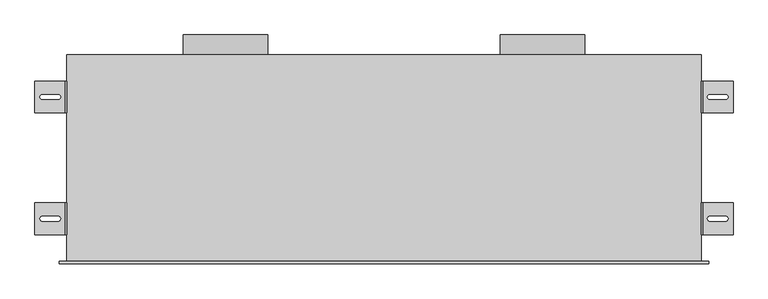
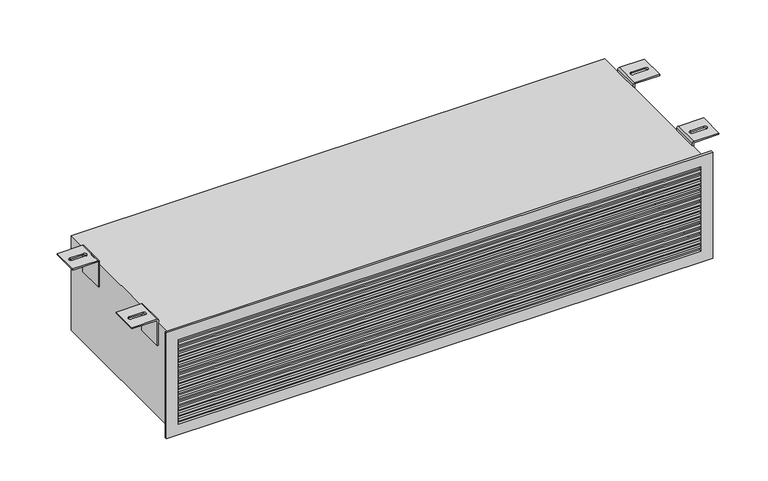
"""IFC4 building model written with IfcOpenShell, lengths in millimetres: air terminal geometry, EOL - Mural - 2 piquages : EOL-M2x160-1200x225-2."""

from ifc_helpers import new_model, si_unit, point, frame, frame_2d, origin, place, context, project, spatial, polyline, circle_curve, ellipse_curve, trimmed, segment, composite_curve, outline, extrude, source, transform, mapped, element, save
from ifc_brep_helpers import plane_surface, cylinder_surface, revolved_surface, extruded_surface, advanced_brep


def air_terminal_dbaeedca(model_context):
    return source(origin(), model_context, "Body", "SolidModel", [
        advanced_brep(
        [(604.0013366, 110.0, 121.5), (660.0, 110.0, 121.5), (660.0, 110.0, 118.5), (604.0, 110.0, 118.5), (603.0, 110.0, 117.5), (603.0, 110.0, 58.5), (600.0, 110.0, 58.5), (600.0, 110.0, 117.4986634), (604.0013366, 50.0, 121.5), (600.0, 50.0, 117.4986634), (600.0, 50.0, 58.5), (603.0, 50.0, 58.5), (603.0, 50.0, 117.5), (604.0, 50.0, 118.5), (660.0, 50.0, 118.5), (660.0, 50.0, 121.5), (646.0287952, 75.4804328, 121.5), (616.0287952, 75.4804328, 121.5), (616.0287952, 84.4804328, 121.5), (646.0287952, 84.4804328, 121.5), (616.0287952, 75.4804328, 118.5), (646.0287952, 75.4804328, 118.5), (646.0287952, 84.4804328, 118.5), (616.0287952, 84.4804328, 118.5)],
        [
            (0, 1),
            (1, 2),
            (2, 3),
            (3, 4, circle_curve(frame((604.0, 110.0, 117.5), z_axis=(0.0, -1.0, 0.0), x_axis=(-1.0000000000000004, 0.0, 0.0)), 1.0)),
            (4, 5),
            (5, 6),
            (6, 7),
            (7, 0, circle_curve(frame((604.0013366, 110.0, 117.4986634), z_axis=(0.0, 1.0, 0.0), x_axis=(-1.0000000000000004, 0.0, 0.0)), 4.0013366)),
            (8, 9, circle_curve(frame((604.0013366, 50.0, 117.4986634), z_axis=(0.0, -1.0, 0.0), x_axis=(-1.0000000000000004, 0.0, 0.0)), 4.0013366)),
            (9, 10),
            (10, 11),
            (11, 12),
            (12, 13, circle_curve(frame((604.0, 50.0, 117.5), z_axis=(0.0, 1.0, 0.0), x_axis=(-1.0000000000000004, 0.0, 0.0)), 1.0)),
            (13, 14),
            (14, 15),
            (15, 8),
            (0, 8),
            (15, 1),
            (16, 17),
            (17, 18, circle_curve(frame((616.0287952, 79.9804328, 121.5), z_axis=(0.0, 0.0, -1.0), x_axis=(0.0, -1.0, 0.0)), 4.5)),
            (18, 19),
            (19, 16, circle_curve(frame((646.0287952, 79.9804328, 121.5), z_axis=(0.0, 0.0, -1.0), x_axis=(0.0, -1.0, 0.0)), 4.5)),
            (14, 2),
            (13, 3),
            (20, 21),
            (21, 22, ellipse_curve(frame((646.0287952, 79.9804328, 118.5), z_axis=(0.0, 0.0, 1.0), x_axis=(0.0, -1.0, 0.0)), 4.5, 4.5)),
            (22, 23),
            (23, 20, ellipse_curve(frame((616.0287952, 79.9804328, 118.5), z_axis=(0.0, 0.0, 1.0), x_axis=(0.0, -1.0, 0.0)), 4.5, 4.5)),
            (12, 4),
            (11, 5),
            (10, 6),
            (9, 7),
            (16, 21),
            (20, 17),
            (19, 22),
            (18, 23),
        ],
        [
            plane_surface(frame((660.0, 110.0, 121.5), z_axis=(0.0, 1.0, 0.0), x_axis=(1.0, 0.0, 0.0))),
            plane_surface(frame((660.0, 50.0, 121.5), z_axis=(0.0, -1.0, 0.0), x_axis=(-1.0, 0.0, 0.0))),
            plane_surface(frame((604.0013366, 110.0, 121.5), z_axis=(0.0, 0.0, 1.0), x_axis=(0.0, -1.0, 0.0))),
            plane_surface(frame((660.0, 110.0, 121.5), z_axis=(1.0, 0.0, 0.0), x_axis=(0.0, -1.0, 0.0))),
            plane_surface(frame((660.0, 110.0, 118.5), z_axis=(0.0, 0.0, -1.0), x_axis=(0.0, -1.0, 0.0))),
            revolved_surface(polyline([(603.0, 50.0, 117.5), (603.0, 110.00000000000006, 117.5)]), (604.0, 50.0, 117.5), (0.0, -1.0000000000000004, 0.0)),
            plane_surface(frame((603.0, 110.0, 117.5), z_axis=(1.0, 0.0, 0.0), x_axis=(0.0, -1.0, 0.0))),
            plane_surface(frame((603.0, 110.0, 58.5), z_axis=(0.0, 0.0, -1.0), x_axis=(0.0, -1.0, 0.0))),
            plane_surface(frame((600.0, 110.0, 58.5), z_axis=(-1.0, 0.0, 0.0), x_axis=(0.0, -1.0, 0.0))),
            cylinder_surface(frame((604.0013366, 50.0, 117.4986634), z_axis=(0.0, 1.0000000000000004, 0.0), x_axis=(-1.0000000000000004, 0.0, 0.0)), 4.0013366),
            plane_surface(frame((616.0287952, 75.4804328, 121.5), z_axis=(0.0, 1.0, 0.0), x_axis=(0.0, 0.0, -1.0))),
            extruded_surface(trimmed(ellipse_curve(frame((646.0287952, 79.9804328, 118.5), z_axis=(0.0, 0.0, 1.0), x_axis=(0.0, -1.0, 0.0)), 4.5, 4.5), [point((646.0287952, 75.4804328, 118.5))], [point((646.0287952, 84.4804328, 118.5))], True, "CARTESIAN"), (0.0, 0.0, -3.0), 3.0),
            plane_surface(frame((646.0287952, 84.4804328, 121.5), z_axis=(0.0, -1.0, 0.0), x_axis=(0.0, 0.0, -1.0))),
            extruded_surface(trimmed(ellipse_curve(frame((616.0287952, 79.9804328, 118.5), z_axis=(0.0, 0.0, 1.0), x_axis=(0.0, -1.0, 0.0)), 4.5, 4.5), [point((616.0287952, 84.4804328, 118.5))], [point((616.0287952, 75.4804328, 118.5))], True, "CARTESIAN"), (0.0, 0.0, -3.0), 3.0),
        ],
        [
            (0, [[1, 2, 3, 4, 5, 6, 7, 8]]),
            (1, [[9, 10, 11, 12, 13, 14, 15, 16]]),
            (2, [[-1, 17, -16, 18], [19, 20, 21, 22]]),
            (3, [[-2, -18, -15, 23]]),
            (4, [[-3, -23, -14, 24], [25, 26, 27, 28]]),
            (5, [[-4, -24, -13, 29]]),
            (6, [[-5, -29, -12, 30]]),
            (7, [[-6, -30, -11, 31]]),
            (8, [[-7, -31, -10, 32]]),
            (9, [[-8, -32, -9, -17]]),
            (10, [[33, -25, 34, -19]]),
            (11, [[-33, -22, 35, -26]]),
            (12, [[-35, -21, 36, -27]]),
            (13, [[-34, -28, -36, -20]]),
        ],
    ),
        advanced_brep(
        [(604.0013366, 340.0, 121.5), (660.0, 340.0, 121.5), (660.0, 340.0, 118.5), (604.0, 340.0, 118.5), (603.0, 340.0, 117.5), (603.0, 340.0, 58.5), (600.0, 340.0, 58.5), (600.0, 340.0, 117.4986634), (604.0013366, 280.0, 121.5), (600.0, 280.0, 117.4986634), (600.0, 280.0, 58.5), (603.0, 280.0, 58.5), (603.0, 280.0, 117.5), (604.0, 280.0, 118.5), (660.0, 280.0, 118.5), (660.0, 280.0, 121.5), (646.0287952, 305.4804328, 121.5), (616.0287952, 305.4804328, 121.5), (616.0287952, 314.4804328, 121.5), (646.0287952, 314.4804328, 121.5), (616.0287952, 305.4804328, 118.5), (646.0287952, 305.4804328, 118.5), (646.0287952, 314.4804328, 118.5), (616.0287952, 314.4804328, 118.5)],
        [
            (0, 1),
            (1, 2),
            (2, 3),
            (3, 4, circle_curve(frame((604.0, 340.0, 117.5), z_axis=(0.0, -1.0, 0.0), x_axis=(-1.0, 0.0, 0.0)), 1.0)),
            (4, 5),
            (5, 6),
            (6, 7),
            (7, 0, circle_curve(frame((604.0013366, 340.0, 117.4986634), z_axis=(0.0, 1.0, 0.0), x_axis=(-1.0, 0.0, 0.0)), 4.0013366)),
            (8, 9, circle_curve(frame((604.0013366, 280.0, 117.4986634), z_axis=(0.0, -1.0, 0.0), x_axis=(-1.0, 0.0, 0.0)), 4.0013366)),
            (9, 10),
            (10, 11),
            (11, 12),
            (12, 13, circle_curve(frame((604.0, 280.0, 117.5), z_axis=(0.0, 1.0, 0.0), x_axis=(-1.0, 0.0, 0.0)), 1.0)),
            (13, 14),
            (14, 15),
            (15, 8),
            (0, 8),
            (15, 1),
            (16, 17),
            (17, 18, circle_curve(frame((616.0287952, 309.9804328, 121.5), z_axis=(0.0, 0.0, -1.0), x_axis=(0.0, -1.0, 0.0)), 4.5)),
            (18, 19),
            (19, 16, circle_curve(frame((646.0287952, 309.9804328, 121.5), z_axis=(0.0, 0.0, -1.0), x_axis=(0.0, -1.0, 0.0)), 4.5)),
            (14, 2),
            (13, 3),
            (20, 21),
            (21, 22, ellipse_curve(frame((646.0287952, 309.9804328, 118.5), z_axis=(0.0, 0.0, 1.0), x_axis=(0.0, -1.0, 0.0)), 4.5, 4.5)),
            (22, 23),
            (23, 20, ellipse_curve(frame((616.0287952, 309.9804328, 118.5), z_axis=(0.0, 0.0, 1.0), x_axis=(0.0, -1.0, 0.0)), 4.5, 4.5)),
            (12, 4),
            (11, 5),
            (10, 6),
            (9, 7),
            (16, 21),
            (20, 17),
            (19, 22),
            (18, 23),
        ],
        [
            plane_surface(frame((660.0, 340.0, 121.5), z_axis=(0.0, 1.0, 0.0), x_axis=(1.0, 0.0, 0.0))),
            plane_surface(frame((660.0, 280.0, 121.5), z_axis=(0.0, -1.0, 0.0), x_axis=(-1.0, 0.0, 0.0))),
            plane_surface(frame((604.0013366, 340.0, 121.5), z_axis=(0.0, 0.0, 1.0), x_axis=(0.0, -1.0, 0.0))),
            plane_surface(frame((660.0, 340.0, 121.5), z_axis=(1.0, 0.0, 0.0), x_axis=(0.0, -1.0, 0.0))),
            plane_surface(frame((660.0, 340.0, 118.5), z_axis=(0.0, 0.0, -1.0), x_axis=(0.0, -1.0, 0.0))),
            revolved_surface(polyline([(603.0, 280.0, 117.5), (603.0, 340.0, 117.5)]), (604.0, 280.0, 117.5), (0.0, -1.0, 0.0)),
            plane_surface(frame((603.0, 340.0, 117.5), z_axis=(1.0, 0.0, 0.0), x_axis=(0.0, -1.0, 0.0))),
            plane_surface(frame((603.0, 340.0, 58.5), z_axis=(0.0, 0.0, -1.0), x_axis=(0.0, -1.0, 0.0))),
            plane_surface(frame((600.0, 340.0, 58.5), z_axis=(-1.0, 0.0, 0.0), x_axis=(0.0, -1.0, 0.0))),
            cylinder_surface(frame((604.0013366, 280.0, 117.4986634), z_axis=(0.0, 1.0, 0.0), x_axis=(-1.0, 0.0, 0.0)), 4.0013366),
            plane_surface(frame((616.0287952, 305.4804328, 121.5), z_axis=(0.0, 1.0, 0.0), x_axis=(0.0, 0.0, -1.0))),
            extruded_surface(trimmed(ellipse_curve(frame((646.0287952, 309.9804328, 118.5), z_axis=(0.0, 0.0, 1.0), x_axis=(0.0, -1.0, 0.0)), 4.5, 4.5), [point((646.0287952, 305.4804328, 118.5))], [point((646.0287952, 314.4804328, 118.5))], True, "CARTESIAN"), (0.0, 0.0, -3.0), 3.0),
            plane_surface(frame((646.0287952, 314.4804328, 121.5), z_axis=(0.0, -1.0, 0.0), x_axis=(0.0, 0.0, -1.0))),
            extruded_surface(trimmed(ellipse_curve(frame((616.0287952, 309.9804328, 118.5), z_axis=(0.0, 0.0, 1.0), x_axis=(0.0, -1.0, 0.0)), 4.5, 4.5), [point((616.0287952, 314.4804328, 118.5))], [point((616.0287952, 305.4804328, 118.5))], True, "CARTESIAN"), (0.0, 0.0, -3.0), 3.0),
        ],
        [
            (0, [[1, 2, 3, 4, 5, 6, 7, 8]]),
            (1, [[9, 10, 11, 12, 13, 14, 15, 16]]),
            (2, [[-1, 17, -16, 18], [19, 20, 21, 22]]),
            (3, [[-2, -18, -15, 23]]),
            (4, [[-3, -23, -14, 24], [25, 26, 27, 28]]),
            (5, [[-4, -24, -13, 29]]),
            (6, [[-5, -29, -12, 30]]),
            (7, [[-6, -30, -11, 31]]),
            (8, [[-7, -31, -10, 32]]),
            (9, [[-8, -32, -9, -17]]),
            (10, [[33, -25, 34, -19]]),
            (11, [[-33, -22, 35, -26]]),
            (12, [[-35, -21, 36, -27]]),
            (13, [[-34, -28, -36, -20]]),
        ],
    ),
        advanced_brep(
        [(-604.0013366, 50.0, 121.5), (-660.0, 50.0, 121.5), (-660.0, 50.0, 118.5), (-604.0, 50.0, 118.5), (-603.0, 50.0, 117.5), (-603.0, 50.0, 58.5), (-600.0, 50.0, 58.5), (-600.0, 50.0, 117.4986634), (-604.0013366, 110.0, 121.5), (-600.0, 110.0, 117.4986634), (-600.0, 110.0, 58.5), (-603.0, 110.0, 58.5), (-603.0, 110.0, 117.5), (-604.0, 110.0, 118.5), (-660.0, 110.0, 118.5), (-660.0, 110.0, 121.5), (-646.0287952, 84.5195672, 121.5), (-616.0287952, 84.5195672, 121.5), (-616.0287952, 75.5195672, 121.5), (-646.0287952, 75.5195672, 121.5), (-616.0287952, 84.5195672, 118.5), (-646.0287952, 84.5195672, 118.5), (-646.0287952, 75.5195672, 118.5), (-616.0287952, 75.5195672, 118.5)],
        [
            (0, 1),
            (1, 2),
            (2, 3),
            (3, 4, circle_curve(frame((-604.0, 50.0, 117.5), z_axis=(0.0, 1.0, 0.0), x_axis=(1.0, 0.0, 0.0)), 1.0)),
            (4, 5),
            (5, 6),
            (6, 7),
            (7, 0, circle_curve(frame((-604.0013366, 50.0, 117.4986634), z_axis=(0.0, -1.0, 0.0), x_axis=(1.0, 0.0, 0.0)), 4.0013366)),
            (8, 9, circle_curve(frame((-604.0013366, 110.0, 117.4986634), z_axis=(0.0, 1.0, 0.0), x_axis=(1.0, 0.0, 0.0)), 4.0013366)),
            (9, 10),
            (10, 11),
            (11, 12),
            (12, 13, circle_curve(frame((-604.0, 110.0, 117.5), z_axis=(0.0, -1.0, 0.0), x_axis=(1.0, 0.0, 0.0)), 1.0)),
            (13, 14),
            (14, 15),
            (15, 8),
            (0, 8),
            (15, 1),
            (16, 17),
            (17, 18, circle_curve(frame((-616.0287952, 80.0195672, 121.5), z_axis=(0.0, 0.0, -1.0), x_axis=(0.0, 1.0, 0.0)), 4.5)),
            (18, 19),
            (19, 16, circle_curve(frame((-646.0287952, 80.0195672, 121.5), z_axis=(0.0, 0.0, -1.0), x_axis=(0.0, 1.0, 0.0)), 4.5)),
            (14, 2),
            (13, 3),
            (20, 21),
            (21, 22, ellipse_curve(frame((-646.0287952, 80.0195672, 118.5), z_axis=(0.0, 0.0, 1.0), x_axis=(0.0, 1.0, 0.0)), 4.5, 4.5)),
            (22, 23),
            (23, 20, ellipse_curve(frame((-616.0287952, 80.0195672, 118.5), z_axis=(0.0, 0.0, 1.0), x_axis=(0.0, 1.0, 0.0)), 4.5, 4.5)),
            (12, 4),
            (11, 5),
            (10, 6),
            (9, 7),
            (16, 21),
            (20, 17),
            (19, 22),
            (18, 23),
        ],
        [
            plane_surface(frame((-660.0, 50.0, 121.5), z_axis=(0.0, -1.0, 0.0), x_axis=(-1.0, 0.0, 0.0))),
            plane_surface(frame((-660.0, 110.0, 121.5), z_axis=(0.0, 1.0, 0.0), x_axis=(1.0, 0.0, 0.0))),
            plane_surface(frame((-604.0013366, 50.0, 121.5), z_axis=(0.0, 0.0, 1.0), x_axis=(0.0, 1.0, 0.0))),
            plane_surface(frame((-660.0, 50.0, 121.5), z_axis=(-1.0, 0.0, 0.0), x_axis=(0.0, 1.0, 0.0))),
            plane_surface(frame((-660.0, 50.0, 118.5), z_axis=(0.0, 0.0, -1.0), x_axis=(0.0, 1.0, 0.0))),
            revolved_surface(polyline([(-603.0, 110.0, 117.5), (-603.0, 50.0, 117.5)]), (-604.0, 110.0, 117.5), (0.0, 1.0, 0.0)),
            plane_surface(frame((-603.0, 50.0, 117.5), z_axis=(-1.0, 0.0, 0.0), x_axis=(0.0, 1.0, 0.0))),
            plane_surface(frame((-603.0, 50.0, 58.5), z_axis=(0.0, 0.0, -1.0), x_axis=(0.0, 1.0, 0.0))),
            plane_surface(frame((-600.0, 50.0, 58.5), z_axis=(1.0, 0.0, 0.0), x_axis=(0.0, 1.0, 0.0))),
            cylinder_surface(frame((-604.0013366, 110.0, 117.4986634), z_axis=(0.0, -1.0, 0.0), x_axis=(1.0, 0.0, 0.0)), 4.0013366),
            plane_surface(frame((-616.0287952, 84.5195672, 121.5), z_axis=(0.0, -1.0, 0.0), x_axis=(0.0, 0.0, -1.0))),
            extruded_surface(trimmed(ellipse_curve(frame((-646.0287952, 80.0195672, 118.5), z_axis=(0.0, 0.0, 1.0), x_axis=(0.0, 1.0, 0.0)), 4.5, 4.5), [point((-646.0287952, 84.5195672, 118.5))], [point((-646.0287952, 75.5195672, 118.5))], True, "CARTESIAN"), (0.0, 0.0, -3.0), 3.0),
            plane_surface(frame((-646.0287952, 75.5195672, 121.5), z_axis=(0.0, 1.0, 0.0), x_axis=(0.0, 0.0, -1.0))),
            extruded_surface(trimmed(ellipse_curve(frame((-616.0287952, 80.0195672, 118.5), z_axis=(0.0, 0.0, 1.0), x_axis=(0.0, 1.0, 0.0)), 4.5, 4.5), [point((-616.0287952, 75.5195672, 118.5))], [point((-616.0287952, 84.5195672, 118.5))], True, "CARTESIAN"), (0.0, 0.0, -3.0), 3.0),
        ],
        [
            (0, [[1, 2, 3, 4, 5, 6, 7, 8]]),
            (1, [[9, 10, 11, 12, 13, 14, 15, 16]]),
            (2, [[-1, 17, -16, 18], [19, 20, 21, 22]]),
            (3, [[-2, -18, -15, 23]]),
            (4, [[-3, -23, -14, 24], [25, 26, 27, 28]]),
            (5, [[-4, -24, -13, 29]]),
            (6, [[-5, -29, -12, 30]]),
            (7, [[-6, -30, -11, 31]]),
            (8, [[-7, -31, -10, 32]]),
            (9, [[-8, -32, -9, -17]]),
            (10, [[33, -25, 34, -19]]),
            (11, [[-33, -22, 35, -26]]),
            (12, [[-35, -21, 36, -27]]),
            (13, [[-34, -28, -36, -20]]),
        ],
    ),
        advanced_brep(
        [(-604.0013366, 280.0, 121.5), (-660.0, 280.0, 121.5), (-660.0, 280.0, 118.5), (-604.0, 280.0, 118.5), (-603.0, 280.0, 117.5), (-603.0, 280.0, 58.5), (-600.0, 280.0, 58.5), (-600.0, 280.0, 117.4986634), (-604.0013366, 340.0, 121.5), (-600.0, 340.0, 117.4986634), (-600.0, 340.0, 58.5), (-603.0, 340.0, 58.5), (-603.0, 340.0, 117.5), (-604.0, 340.0, 118.5), (-660.0, 340.0, 118.5), (-660.0, 340.0, 121.5), (-646.0287952, 314.5195672, 121.5), (-616.0287952, 314.5195672, 121.5), (-616.0287952, 305.5195672, 121.5), (-646.0287952, 305.5195672, 121.5), (-616.0287952, 314.5195672, 118.5), (-646.0287952, 314.5195672, 118.5), (-646.0287952, 305.5195672, 118.5), (-616.0287952, 305.5195672, 118.5)],
        [
            (0, 1),
            (1, 2),
            (2, 3),
            (3, 4, circle_curve(frame((-604.0, 280.0, 117.5), z_axis=(0.0, 1.0, 0.0), x_axis=(1.0, 0.0, 0.0)), 1.0)),
            (4, 5),
            (5, 6),
            (6, 7),
            (7, 0, circle_curve(frame((-604.0013366, 280.0, 117.4986634), z_axis=(0.0, -1.0, 0.0), x_axis=(1.0, 0.0, 0.0)), 4.0013366)),
            (8, 9, circle_curve(frame((-604.0013366, 340.0, 117.4986634), z_axis=(0.0, 1.0, 0.0), x_axis=(1.0, 0.0, 0.0)), 4.0013366)),
            (9, 10),
            (10, 11),
            (11, 12),
            (12, 13, circle_curve(frame((-604.0, 340.0, 117.5), z_axis=(0.0, -1.0, 0.0), x_axis=(1.0, 0.0, 0.0)), 1.0)),
            (13, 14),
            (14, 15),
            (15, 8),
            (0, 8),
            (15, 1),
            (16, 17),
            (17, 18, circle_curve(frame((-616.0287952, 310.0195672, 121.5), z_axis=(0.0, 0.0, -1.0), x_axis=(0.0, 1.0, 0.0)), 4.5)),
            (18, 19),
            (19, 16, circle_curve(frame((-646.0287952, 310.0195672, 121.5), z_axis=(0.0, 0.0, -1.0), x_axis=(0.0, 1.0, 0.0)), 4.5)),
            (14, 2),
            (13, 3),
            (20, 21),
            (21, 22, ellipse_curve(frame((-646.0287952, 310.0195672, 118.5), z_axis=(0.0, 0.0, 1.0), x_axis=(0.0, 1.0, 0.0)), 4.5, 4.5)),
            (22, 23),
            (23, 20, ellipse_curve(frame((-616.0287952, 310.0195672, 118.5), z_axis=(0.0, 0.0, 1.0), x_axis=(0.0, 1.0, 0.0)), 4.5, 4.5)),
            (12, 4),
            (11, 5),
            (10, 6),
            (9, 7),
            (16, 21),
            (20, 17),
            (19, 22),
            (18, 23),
        ],
        [
            plane_surface(frame((-660.0, 280.0, 121.5), z_axis=(0.0, -1.0, 0.0), x_axis=(-1.0, 0.0, 0.0))),
            plane_surface(frame((-660.0, 340.0, 121.5), z_axis=(0.0, 1.0, 0.0), x_axis=(1.0, 0.0, 0.0))),
            plane_surface(frame((-604.0013366, 280.0, 121.5), z_axis=(0.0, 0.0, 1.0), x_axis=(0.0, 1.0, 0.0))),
            plane_surface(frame((-660.0, 280.0, 121.5), z_axis=(-1.0, 0.0, 0.0), x_axis=(0.0, 1.0, 0.0))),
            plane_surface(frame((-660.0, 280.0, 118.5), z_axis=(0.0, 0.0, -1.0), x_axis=(0.0, 1.0, 0.0))),
            revolved_surface(polyline([(-603.0, 340.0, 117.5), (-603.0, 280.0, 117.5)]), (-604.0, 340.0, 117.5), (0.0, 1.0, 0.0)),
            plane_surface(frame((-603.0, 280.0, 117.5), z_axis=(-1.0, 0.0, 0.0), x_axis=(0.0, 1.0, 0.0))),
            plane_surface(frame((-603.0, 280.0, 58.5), z_axis=(0.0, 0.0, -1.0), x_axis=(0.0, 1.0, 0.0))),
            plane_surface(frame((-600.0, 280.0, 58.5), z_axis=(1.0, 0.0, 0.0), x_axis=(0.0, 1.0, 0.0))),
            cylinder_surface(frame((-604.0013366, 340.0, 117.4986634), z_axis=(0.0, -1.0, 0.0), x_axis=(1.0, 0.0, 0.0)), 4.0013366),
            plane_surface(frame((-616.0287952, 314.5195672, 121.5), z_axis=(0.0, -1.0, 0.0), x_axis=(0.0, 0.0, -1.0))),
            extruded_surface(trimmed(ellipse_curve(frame((-646.0287952, 310.0195672, 118.5), z_axis=(0.0, 0.0, 1.0), x_axis=(0.0, 1.0, 0.0)), 4.5, 4.5), [point((-646.0287952, 314.5195672, 118.5))], [point((-646.0287952, 305.5195672, 118.5))], True, "CARTESIAN"), (0.0, 0.0, -3.0), 3.0),
            plane_surface(frame((-646.0287952, 305.5195672, 121.5), z_axis=(0.0, 1.0, 0.0), x_axis=(0.0, 0.0, -1.0))),
            extruded_surface(trimmed(ellipse_curve(frame((-616.0287952, 310.0195672, 118.5), z_axis=(0.0, 0.0, 1.0), x_axis=(0.0, 1.0, 0.0)), 4.5, 4.5), [point((-616.0287952, 305.5195672, 118.5))], [point((-616.0287952, 314.5195672, 118.5))], True, "CARTESIAN"), (0.0, 0.0, -3.0), 3.0),
        ],
        [
            (0, [[1, 2, 3, 4, 5, 6, 7, 8]]),
            (1, [[9, 10, 11, 12, 13, 14, 15, 16]]),
            (2, [[-1, 17, -16, 18], [19, 20, 21, 22]]),
            (3, [[-2, -18, -15, 23]]),
            (4, [[-3, -23, -14, 24], [25, 26, 27, 28]]),
            (5, [[-4, -24, -13, 29]]),
            (6, [[-5, -29, -12, 30]]),
            (7, [[-6, -30, -11, 31]]),
            (8, [[-7, -31, -10, 32]]),
            (9, [[-8, -32, -9, -17]]),
            (10, [[33, -25, 34, -19]]),
            (11, [[-33, -22, 35, -26]]),
            (12, [[-35, -21, 36, -27]]),
            (13, [[-34, -28, -36, -20]]),
        ],
    ),
        extrude(outline(composite_curve([segment(trimmed(circle_curve(frame_2d((0.0, 300.0)), 80.0), [point((0.0, 220.0))], [point((0.0, 380.0))], False, "CARTESIAN"), True, "CONTINUOUS"), segment(trimmed(circle_curve(frame_2d((0.0, 300.0)), 80.0), [point((0.0, 380.0))], [point((0.0, 220.0))], False, "CARTESIAN"), True, "CONTINUOUS")], self_intersect=False), holes=[composite_curve([segment(trimmed(circle_curve(frame_2d((0.0, 300.0)), 79.0), [point((0.0, 379.0))], [point((0.0, 221.0))], True, "CARTESIAN"), True, "CONTINUOUS"), segment(trimmed(circle_curve(frame_2d((0.0, 300.0)), 79.0), [point((0.0, 221.0))], [point((0.0, 379.0))], True, "CARTESIAN"), True, "CONTINUOUS")], self_intersect=False)]), frame((0.0, 390.0, 0.0), z_axis=(0.0, 1.0, 0.0), x_axis=(0.0, 0.0, 1.0)), (0.0, 0.0, 1.0), 37.5),
        extrude(outline(composite_curve([segment(trimmed(circle_curve(frame_2d((0.0, -300.0)), 80.0), [point((0.0, -380.0))], [point((0.0, -220.0))], False, "CARTESIAN"), True, "CONTINUOUS"), segment(trimmed(circle_curve(frame_2d((0.0, -300.0)), 80.0), [point((0.0, -220.0))], [point((0.0, -380.0))], False, "CARTESIAN"), True, "CONTINUOUS")], self_intersect=False), holes=[composite_curve([segment(trimmed(circle_curve(frame_2d((0.0, -300.0)), 79.0), [point((0.0, -221.0))], [point((0.0, -379.0))], True, "CARTESIAN"), True, "CONTINUOUS"), segment(trimmed(circle_curve(frame_2d((0.0, -300.0)), 79.0), [point((0.0, -379.0))], [point((0.0, -221.0))], True, "CARTESIAN"), True, "CONTINUOUS")], self_intersect=False)]), frame((0.0, 390.0, 0.0), z_axis=(0.0, 1.0, 0.0), x_axis=(0.0, 0.0, 1.0)), (0.0, 0.0, 1.0), 37.5),
        extrude(outline(polyline([(587.5, 0.0), (587.5, -5.0), (-587.5, -5.0), (-587.5, 0.0), (587.5, 0.0)])), frame((0.0, 0.0, 87.15), z_axis=(0.0, 0.0, 1.0), x_axis=(1.0, 0.0, 0.0)), (0.0, 0.0, 1.0), 5.6),
        extrude(outline(polyline([(587.5, 0.0), (587.5, -5.0), (-587.5, -5.0), (-587.5, 0.0), (587.5, 0.0)])), frame((0.0, 0.0, 74.3), z_axis=(0.0, 0.0, 1.0), x_axis=(1.0, 0.0, 0.0)), (0.0, 0.0, 1.0), 5.6),
        extrude(outline(polyline([(587.5, 0.0), (587.5, -5.0), (-587.5, -5.0), (-587.5, 0.0), (587.5, 0.0)])), frame((0.0, 0.0, 61.45), z_axis=(0.0, 0.0, 1.0), x_axis=(1.0, 0.0, 0.0)), (0.0, 0.0, 1.0), 5.6),
        extrude(outline(polyline([(587.5, 0.0), (587.5, -5.0), (-587.5, -5.0), (-587.5, 0.0), (587.5, 0.0)])), frame((0.0, 0.0, 48.6), z_axis=(0.0, 0.0, 1.0), x_axis=(1.0, 0.0, 0.0)), (0.0, 0.0, 1.0), 5.6),
        extrude(outline(polyline([(587.5, 0.0), (587.5, -5.0), (-587.5, -5.0), (-587.5, 0.0), (587.5, 0.0)])), frame((0.0, 0.0, 35.75), z_axis=(0.0, 0.0, 1.0), x_axis=(1.0, 0.0, 0.0)), (0.0, 0.0, 1.0), 5.6),
        extrude(outline(polyline([(587.5, 0.0), (587.5, -5.0), (-587.5, -5.0), (-587.5, 0.0), (587.5, 0.0)])), frame((0.0, 0.0, 22.9), z_axis=(0.0, 0.0, 1.0), x_axis=(1.0, 0.0, 0.0)), (0.0, 0.0, 1.0), 5.6),
        extrude(outline(polyline([(587.5, 0.0), (587.5, -5.0), (-587.5, -5.0), (-587.5, 0.0), (587.5, 0.0)])), frame((0.0, 0.0, 10.05), z_axis=(0.0, 0.0, 1.0), x_axis=(1.0, 0.0, 0.0)), (0.0, 0.0, 1.0), 5.6),
        extrude(outline(polyline([(587.5, 0.0), (587.5, -5.0), (-587.5, -5.0), (-587.5, 0.0), (587.5, 0.0)])), frame((0.0, 0.0, -2.8), z_axis=(0.0, 0.0, 1.0), x_axis=(1.0, 0.0, 0.0)), (0.0, 0.0, 1.0), 5.6),
        extrude(outline(polyline([(587.5, 0.0), (587.5, -5.0), (-587.5, -5.0), (-587.5, 0.0), (587.5, 0.0)])), frame((0.0, 0.0, -15.65), z_axis=(0.0, 0.0, 1.0), x_axis=(1.0, 0.0, 0.0)), (0.0, 0.0, 1.0), 5.6),
        extrude(outline(polyline([(587.5, 0.0), (587.5, -5.0), (-587.5, -5.0), (-587.5, 0.0), (587.5, 0.0)])), frame((0.0, 0.0, -28.5), z_axis=(0.0, 0.0, 1.0), x_axis=(1.0, 0.0, 0.0)), (0.0, 0.0, 1.0), 5.6),
        extrude(outline(polyline([(587.5, 0.0), (587.5, -5.0), (-587.5, -5.0), (-587.5, 0.0), (587.5, 0.0)])), frame((0.0, 0.0, -41.35), z_axis=(0.0, 0.0, 1.0), x_axis=(1.0, 0.0, 0.0)), (0.0, 0.0, 1.0), 5.6),
        extrude(outline(polyline([(587.5, 0.0), (587.5, -5.0), (-587.5, -5.0), (-587.5, 0.0), (587.5, 0.0)])), frame((0.0, 0.0, -54.2), z_axis=(0.0, 0.0, 1.0), x_axis=(1.0, 0.0, 0.0)), (0.0, 0.0, 1.0), 5.6),
        extrude(outline(polyline([(587.5, 0.0), (587.5, -5.0), (-587.5, -5.0), (-587.5, 0.0), (587.5, 0.0)])), frame((0.0, 0.0, -67.05), z_axis=(0.0, 0.0, 1.0), x_axis=(1.0, 0.0, 0.0)), (0.0, 0.0, 1.0), 5.6),
        extrude(outline(polyline([(587.5, 0.0), (587.5, -5.0), (-587.5, -5.0), (-587.5, 0.0), (587.5, 0.0)])), frame((0.0, 0.0, -79.9), z_axis=(0.0, 0.0, 1.0), x_axis=(1.0, 0.0, 0.0)), (0.0, 0.0, 1.0), 5.6),
        extrude(outline(polyline([(587.5, 0.0), (587.5, -5.0), (-587.5, -5.0), (-587.5, 0.0), (587.5, 0.0)])), frame((0.0, 0.0, -92.75), z_axis=(0.0, 0.0, 1.0), x_axis=(1.0, 0.0, 0.0)), (0.0, 0.0, 1.0), 5.6),
        extrude(outline(polyline([(126.0, 614.0), (126.0, -614.0), (-126.0, -614.0), (-126.0, 614.0), (126.0, 614.0)]), holes=[polyline([(100.0, 587.5), (-100.0, 587.5), (-100.0, -587.5), (100.0, -587.5), (100.0, 587.5)])]), frame((0.0, -5.0, 0.0), z_axis=(0.0, 1.0, 0.0), x_axis=(0.0, 0.0, 1.0)), (0.0, 0.0, 1.0), 5.0),
        advanced_brep(
        [(600.0, 390.0, 112.5), (-600.0, 390.0, 112.5), (-600.0, 0.0, 112.5), (600.0, 0.0, 112.5), (600.0, 390.0, -112.5), (600.0, 0.0, -112.5), (-600.0, 0.0, -112.5), (-600.0, 390.0, -112.5), (221.0, 390.0, 0.0), (379.0, 390.0, 0.0), (-379.0, 390.0, 0.0), (-221.0, 390.0, 0.0), (-595.0, 0.0, 107.5), (595.0, 0.0, 107.5), (595.0, 0.0, -107.5), (-595.0, 0.0, -107.5), (595.0, 385.0, 107.5), (-595.0, 385.0, 107.5), (595.0, 385.0, -107.5), (-595.0, 385.0, -107.5), (379.0, 385.0, 0.0), (221.0, 385.0, 0.0), (-221.0, 385.0, 0.0), (-379.0, 385.0, 0.0)],
        [
            (0, 1),
            (1, 2),
            (2, 3),
            (3, 0),
            (4, 5),
            (5, 6),
            (6, 7),
            (7, 4),
            (0, 4),
            (7, 1),
            (8, 9, circle_curve(frame((300.0, 390.0, 0.0), z_axis=(0.0, -1.0, 0.0), x_axis=(1.0, 0.0, 0.0)), 79.0)),
            (9, 8, circle_curve(frame((300.0, 390.0, 0.0), z_axis=(0.0, -1.0, 0.0), x_axis=(1.0, 0.0, 0.0)), 79.0)),
            (10, 11, circle_curve(frame((-300.0, 390.0, 0.0), z_axis=(0.0, -1.0, 0.0), x_axis=(1.0, 0.0, 0.0)), 79.0)),
            (11, 10, circle_curve(frame((-300.0, 390.0, 0.0), z_axis=(0.0, -1.0, 0.0), x_axis=(1.0, 0.0, 0.0)), 79.0)),
            (6, 2),
            (5, 3),
            (12, 13),
            (13, 14),
            (14, 15),
            (15, 12),
            (16, 13),
            (12, 17),
            (17, 16),
            (18, 19),
            (19, 15),
            (14, 18),
            (17, 19),
            (18, 16),
            (20, 21, circle_curve(frame((300.0, 385.0, 0.0), z_axis=(0.0, 1.0, 0.0), x_axis=(1.0, 0.0, 0.0)), 79.0)),
            (21, 20, circle_curve(frame((300.0, 385.0, 0.0), z_axis=(0.0, 1.0, 0.0), x_axis=(1.0, 0.0, 0.0)), 79.0)),
            (22, 23, circle_curve(frame((-300.0, 385.0, 0.0), z_axis=(0.0, 1.0, 0.0), x_axis=(1.0, 0.0, 0.0)), 79.0)),
            (23, 22, circle_curve(frame((-300.0, 385.0, 0.0), z_axis=(0.0, 1.0, 0.0), x_axis=(1.0, 0.0, 0.0)), 79.0)),
            (8, 21),
            (20, 9),
            (10, 23),
            (22, 11),
        ],
        [
            plane_surface(frame((-600.0, 390.0, 112.5), z_axis=(0.0, 0.0, 1.0), x_axis=(-1.0, 0.0, 0.0))),
            plane_surface(frame((-600.0, 390.0, -112.5), z_axis=(0.0, 0.0, -1.0), x_axis=(1.0, 0.0, 0.0))),
            plane_surface(frame((600.0, 390.0, 112.5), z_axis=(0.0, 1.0, 0.0), x_axis=(0.0, 0.0, -1.0))),
            plane_surface(frame((-600.0, 390.0, 112.5), z_axis=(-1.0, 0.0, 0.0), x_axis=(0.0, 0.0, -1.0))),
            plane_surface(frame((-600.0, 0.0, 112.5), z_axis=(0.0, -1.0, 0.0), x_axis=(0.0, 0.0, -1.0))),
            plane_surface(frame((600.0, 0.0, 112.5), z_axis=(1.0, 0.0, 0.0), x_axis=(0.0, 0.0, -1.0))),
            plane_surface(frame((-595.0, 385.0, 107.5), z_axis=(0.0, 0.0, -1.0), x_axis=(-1.0, 0.0, 0.0))),
            plane_surface(frame((-595.0, 385.0, -107.5), z_axis=(0.0, 0.0, 1.0), x_axis=(1.0, 0.0, 0.0))),
            plane_surface(frame((595.0, 385.0, 107.5), z_axis=(0.0, -1.0, 0.0), x_axis=(0.0, 0.0, -1.0))),
            plane_surface(frame((-595.0, 385.0, 107.5), z_axis=(1.0, 0.0, 0.0), x_axis=(0.0, 0.0, -1.0))),
            plane_surface(frame((595.0, 0.0, 107.5), z_axis=(-1.0, 0.0, 0.0), x_axis=(0.0, 0.0, -1.0))),
            revolved_surface(polyline([(379.0, 385.0, 0.0), (379.0, 390.0, 0.0)]), (300.0, 427.5, 0.0), (0.0, -1.0, 0.0)),
            revolved_surface(polyline([(-221.0, 385.0, 0.0), (-221.0, 390.0, 0.0)]), (-300.0, 0.0, 0.0), (0.0, -1.0, 0.0)),
        ],
        [
            (0, [[1, 2, 3, 4]]),
            (1, [[5, 6, 7, 8]]),
            (2, [[-1, 9, -8, 10], [11, 12], [13, 14]]),
            (3, [[-2, -10, -7, 15]]),
            (4, [[-3, -15, -6, 16], [17, 18, 19, 20]]),
            (5, [[-4, -16, -5, -9]]),
            (6, [[21, -17, 22, 23]]),
            (7, [[24, 25, -19, 26]]),
            (8, [[-23, 27, -24, 28], [29, 30], [31, 32]]),
            (9, [[-22, -20, -25, -27]]),
            (10, [[-21, -28, -26, -18]]),
            (11, [[33, -29, 34, -11]]),
            (11, [[-33, -12, -34, -30]]),
            (12, [[35, -31, 36, -13]]),
            (12, [[-35, -14, -36, -32]]),
        ],
    ),
    ])


if __name__ == "__main__":
    model = new_model("IFC4")
    model_context = context("Model", 3, world=origin())
    ifc_project = project(units=[si_unit("LENGTHUNIT", "METRE", prefix="MILLI")], contexts=[model_context])
    site = spatial("IfcSite", under=ifc_project)
    building = spatial("IfcBuilding", under=site)
    placement = place(None, origin())
    air_terminal_shape = air_terminal_dbaeedca(model_context)
    element("IfcAirTerminal", 1, ObjectType="EOL - Mural - 2 piquages : EOL-M2x160-1200x225-2", at=placement, inside=building, context=model_context, shape_type="MappedRepresentation", body=[
        mapped(air_terminal_shape, transform((0.0, 0.0, 0.0), x_axis=(1.0, 0.0, 0.0), y_axis=(0.0, 1.0, 0.0), z_axis=(0.0, 0.0, 1.0))),
    ])
    save(model, "model.ifc")
